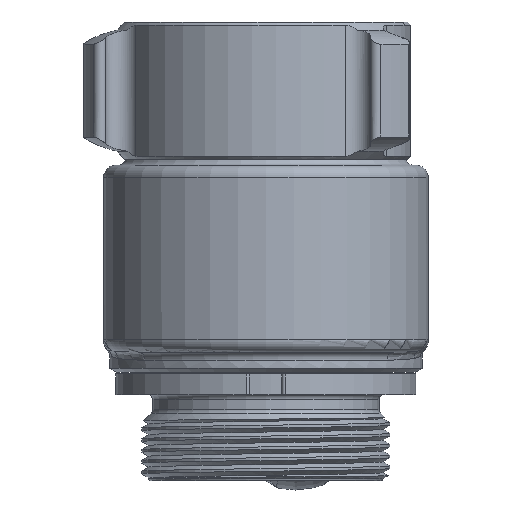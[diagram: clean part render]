
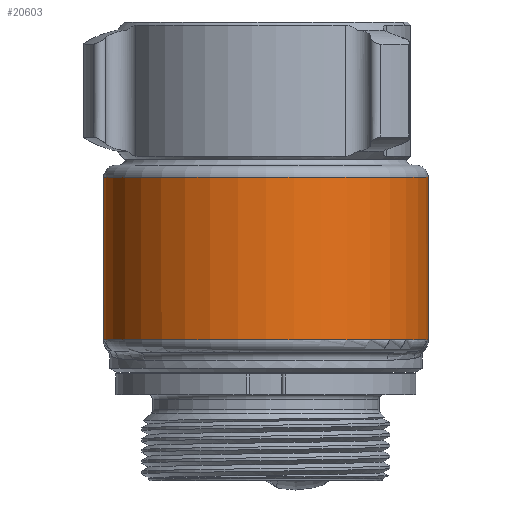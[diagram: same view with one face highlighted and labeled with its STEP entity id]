
A CAD part, front view. The second image highlights one B-rep face of the part: STEP entity #20603.
In plain terms, the highlighted cylindrical face has radius 50.8 mm (diameter 101.6 mm), a partial arc.
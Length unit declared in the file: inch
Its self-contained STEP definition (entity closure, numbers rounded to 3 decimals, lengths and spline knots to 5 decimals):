
#513 = VERTEX_POINT ( 'NONE', #16062 ) ;
#514 = VERTEX_POINT ( 'NONE', #16061 ) ;
#541 = VERTEX_POINT ( 'NONE', #16033 ) ;
#543 = VERTEX_POINT ( 'NONE', #16031 ) ;
#545 = VERTEX_POINT ( 'NONE', #16029 ) ;
#557 = VERTEX_POINT ( 'NONE', #16017 ) ;
#602 = B_SPLINE_CURVE_WITH_KNOTS ( 'NONE', 3,
 ( #7668, #7669, #7673, #7674, #7675, #7676 ),
 .UNSPECIFIED., .F., .F.,
 ( 4, 2, 4 ),
 ( 0., 0.00444, 0.00888 ),
 .UNSPECIFIED. ) ;
#603 = B_SPLINE_CURVE_WITH_KNOTS ( 'NONE', 3,
 ( #7684, #7685, #7689, #7690, #7691, #7692 ),
 .UNSPECIFIED., .F., .F.,
 ( 4, 2, 4 ),
 ( 0., 0.00444, 0.00888 ),
 .UNSPECIFIED. ) ;
#3824 = FACE_OUTER_BOUND ( 'NONE', #14854, .T. ) ;
#3832 = CYLINDRICAL_SURFACE ( 'NONE', #10308, 2. ) ;
#6882 = CIRCLE ( 'NONE', #10139, 2. ) ;
#6944 = LINE ( 'NONE', #7780, #6946 ) ;
#6946 = VECTOR ( 'NONE', #7788, 39.37008 ) ;
#6947 = LINE ( 'NONE', #7802, #6950 ) ;
#6949 = CIRCLE ( 'NONE', #10157, 2. ) ;
#6950 = VECTOR ( 'NONE', #7803, 39.37008 ) ;
#7668 = CARTESIAN_POINT ( 'NONE',  ( -2., -0.3, -1.00888 ) ) ;
#7669 = CARTESIAN_POINT ( 'NONE',  ( -2., -0.35834, -1.00576 ) ) ;
#7673 = CARTESIAN_POINT ( 'NONE',  ( -1.99745, -0.41652, -1.00357 ) ) ;
#7674 = CARTESIAN_POINT ( 'NONE',  ( -1.98729, -0.53253, -1.00068 ) ) ;
#7675 = CARTESIAN_POINT ( 'NONE',  ( -1.97966, -0.59044, -1. ) ) ;
#7676 = CARTESIAN_POINT ( 'NONE',  ( -1.9695, -0.64797, -1. ) ) ;
#7681 = CARTESIAN_POINT ( 'NONE',  ( 0., -0.3, -1. ) ) ;
#7682 = DIRECTION ( 'NONE',  ( 0., 0., 1. ) ) ;
#7683 = DIRECTION ( 'NONE',  ( 1., 0., 0. ) ) ;
#7684 = CARTESIAN_POINT ( 'NONE',  ( 1.9695, -0.64797, -1. ) ) ;
#7685 = CARTESIAN_POINT ( 'NONE',  ( 1.97966, -0.59044, -1. ) ) ;
#7689 = CARTESIAN_POINT ( 'NONE',  ( 1.98727, -0.53267, -1.00068 ) ) ;
#7690 = CARTESIAN_POINT ( 'NONE',  ( 1.99744, -0.41666, -1.00356 ) ) ;
#7691 = CARTESIAN_POINT ( 'NONE',  ( 2., -0.35834, -1.00576 ) ) ;
#7692 = CARTESIAN_POINT ( 'NONE',  ( 2., -0.3, -1.00888 ) ) ;
#7780 = CARTESIAN_POINT ( 'NONE',  ( -2., -0.3, 1.15 ) ) ;
#7788 = DIRECTION ( 'NONE',  ( 0., 0., -1. ) ) ;
#7802 = CARTESIAN_POINT ( 'NONE',  ( 2., -0.3, 1.15 ) ) ;
#7803 = DIRECTION ( 'NONE',  ( 0., 0., -1. ) ) ;
#7806 = CARTESIAN_POINT ( 'NONE',  ( 0., -0.3, 1. ) ) ;
#7807 = DIRECTION ( 'NONE',  ( 0., 0., -1. ) ) ;
#7808 = DIRECTION ( 'NONE',  ( 1., 0., 0. ) ) ;
#10139 = AXIS2_PLACEMENT_3D ( 'NONE', #7681, #7682, #7683 ) ;
#10157 = AXIS2_PLACEMENT_3D ( 'NONE', #7806, #7807, #7808 ) ;
#10308 = AXIS2_PLACEMENT_3D ( 'NONE', #19250, #19249, #19245 ) ;
#14854 = EDGE_LOOP ( 'NONE', ( #15172, #15171, #15170, #15169, #15168, #15167 ) ) ;
#15167 = ORIENTED_EDGE ( 'NONE', *, *, #20263, .T. ) ;
#15168 = ORIENTED_EDGE ( 'NONE', *, *, #20262, .F. ) ;
#15169 = ORIENTED_EDGE ( 'NONE', *, *, #16378, .T. ) ;
#15170 = ORIENTED_EDGE ( 'NONE', *, *, #16376, .T. ) ;
#15171 = ORIENTED_EDGE ( 'NONE', *, *, #16374, .T. ) ;
#15172 = ORIENTED_EDGE ( 'NONE', *, *, #20260, .T. ) ;
#16017 = CARTESIAN_POINT ( 'NONE',  ( 1.9695, -0.64797, -1. ) ) ;
#16029 = CARTESIAN_POINT ( 'NONE',  ( -1.9695, -0.64797, -1. ) ) ;
#16031 = CARTESIAN_POINT ( 'NONE',  ( -2., -0.3, -1.00888 ) ) ;
#16033 = CARTESIAN_POINT ( 'NONE',  ( 2., -0.3, -1.00888 ) ) ;
#16061 = CARTESIAN_POINT ( 'NONE',  ( 2., -0.3, 1. ) ) ;
#16062 = CARTESIAN_POINT ( 'NONE',  ( -2., -0.3, 1. ) ) ;
#16374 = EDGE_CURVE ( 'NONE', #543, #545, #602, .T. ) ;
#16376 = EDGE_CURVE ( 'NONE', #545, #557, #6882, .T. ) ;
#16378 = EDGE_CURVE ( 'NONE', #557, #541, #603, .T. ) ;
#19245 = DIRECTION ( 'NONE',  ( -1., 0., 0. ) ) ;
#19249 = DIRECTION ( 'NONE',  ( 0., 0., -1. ) ) ;
#19250 = CARTESIAN_POINT ( 'NONE',  ( 0., -0.3, 1.15 ) ) ;
#20260 = EDGE_CURVE ( 'NONE', #513, #543, #6944, .T. ) ;
#20262 = EDGE_CURVE ( 'NONE', #514, #541, #6947, .T. ) ;
#20263 = EDGE_CURVE ( 'NONE', #514, #513, #6949, .T. ) ;
#20603 = ADVANCED_FACE ( 'NONE', ( #3824 ), #3832, .T. ) ;
